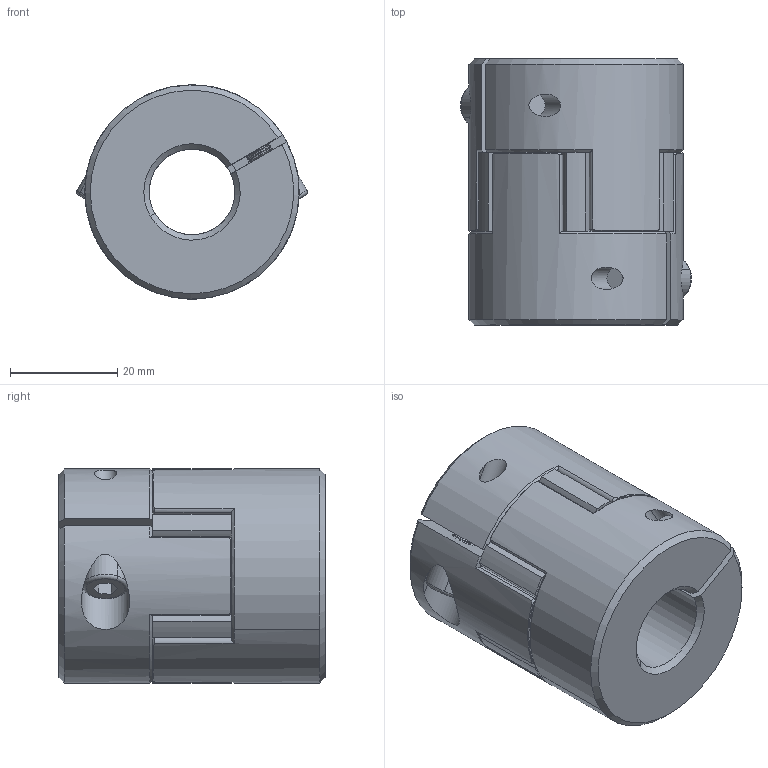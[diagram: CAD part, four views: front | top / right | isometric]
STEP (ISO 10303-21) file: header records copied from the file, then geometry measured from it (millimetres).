
FILE_DESCRIPTION (( 'STEP AP203' ), '1' );
FILE_NAME ('LF-B-D40L50-16-16.STEP', '2021-10-25T03:11:12', ( '' ), ( '' ), 'SwSTEP 2.0', 'SolidWorks 2018', '' );
FILE_SCHEMA (( 'CONFIG_CONTROL_DESIGN' ));
Length unit declared in the file: millimetre
Products named in the file (1): LF-B-D40L50-16-16
Bounding box: 43.11 x 49.7 x 40 mm (x, y, z)
Volume: 49941.3 mm3; surface area: 14611.5 mm2
Topology: 1 solids, 7 shells, 471 faces, 1117 edges, 662 vertices
Faces by surface type: cone 170, cylinder 169, plane 128, torus 4
Entity records: 13972 total; most frequent: CARTESIAN_POINT 2895, DIRECTION 2509, ORIENTED_EDGE 2226, EDGE_CURVE 1113, AXIS2_PLACEMENT_3D 1040, VERTEX_POINT 662, CIRCLE 568, EDGE_LOOP 487
